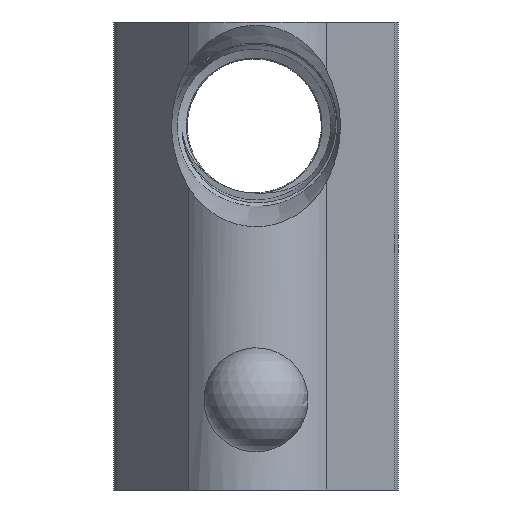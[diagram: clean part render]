
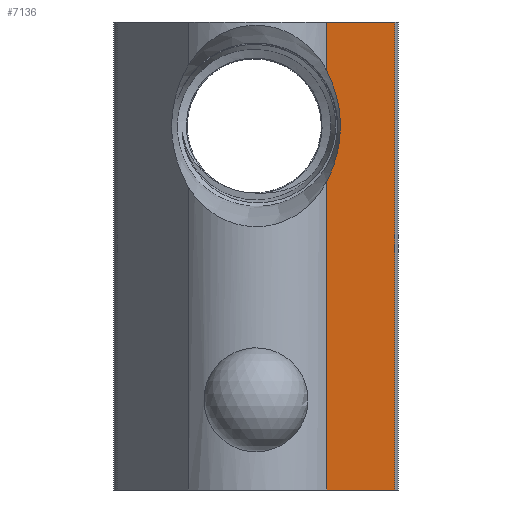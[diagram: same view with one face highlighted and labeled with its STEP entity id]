
A CAD part, front view. The second image highlights one B-rep face of the part: STEP entity #7136.
In plain terms, the highlighted planar face has unit normal (0.815, -0.579, 0).
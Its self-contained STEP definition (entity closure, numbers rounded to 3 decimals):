
#608 = CONICAL_SURFACE('',#609,2.818,0.284);
#609 = AXIS2_PLACEMENT_3D('',#610,#611,#612);
#610 = CARTESIAN_POINT('',(0.,-3.911,3.75));
#611 = DIRECTION('',(0.,-1.,0.));
#612 = DIRECTION('',(-1.,0.,0.));
#1327 = VERTEX_POINT('',#1328);
#1328 = CARTESIAN_POINT('',(2.034,-3.15,
    5.363));
#1401 = CYLINDRICAL_SURFACE('',#1402,2.495);
#1402 = AXIS2_PLACEMENT_3D('',#1403,#1404,#1405);
#1403 = CARTESIAN_POINT('',(0.,-1.705,0.));
#1404 = DIRECTION('',(0.,0.,1.));
#1405 = DIRECTION('',(-0.815,-0.579,0.));
#1457 = EDGE_CURVE('',#1327,#1458,#1460,.T.);
#1458 = VERTEX_POINT('',#1459);
#1459 = CARTESIAN_POINT('',(2.034,-3.15,
    2.137));
#1460 = SURFACE_CURVE('',#1461,(#1466,#1495),.PCURVE_S1.);
#1461 = ELLIPSE('',#1462,7.134,3.765);
#1462 = AXIS2_PLACEMENT_3D('',#1463,#1464,#1465);
#1463 = CARTESIAN_POINT('',(-1.698,-8.405,3.75));
#1464 = DIRECTION('',(-0.815,0.579,0.));
#1465 = DIRECTION('',(0.579,0.815,0.));
#1466 = PCURVE('',#608,#1467);
#1467 = DEFINITIONAL_REPRESENTATION('',(#1468),#1494);
#1468 = B_SPLINE_CURVE_WITH_KNOTS('',3,(#1469,#1470,#1471,#1472,#1473,
    #1474,#1475,#1476,#1477,#1478,#1479,#1480,#1481,#1482,#1483,#1484,
    #1485,#1486,#1487,#1488,#1489,#1490,#1491,#1492,#1493),
  .UNSPECIFIED.,.F.,.F.,(4,1,1,1,1,1,1,1,1,1,1,1,1,1,1,1,1,1,1,1,1,1,4),
  (5.841,5.881,5.921,5.961,
    6.001,6.042,6.082,6.122,
    6.162,6.203,6.243,6.283,
    6.323,6.364,6.404,6.444,
    6.484,6.525,6.565,6.605,
    6.645,6.686,6.726),
  .QUASI_UNIFORM_KNOTS.);
#1469 = CARTESIAN_POINT('',(3.812,-0.761));
#1470 = CARTESIAN_POINT('',(3.792,-0.795));
#1471 = CARTESIAN_POINT('',(3.753,-0.859));
#1472 = CARTESIAN_POINT('',(3.694,-0.946));
#1473 = CARTESIAN_POINT('',(3.634,-1.025));
#1474 = CARTESIAN_POINT('',(3.574,-1.094));
#1475 = CARTESIAN_POINT('',(3.513,-1.155));
#1476 = CARTESIAN_POINT('',(3.452,-1.206));
#1477 = CARTESIAN_POINT('',(3.39,-1.248));
#1478 = CARTESIAN_POINT('',(3.328,-1.281));
#1479 = CARTESIAN_POINT('',(3.266,-1.305));
#1480 = CARTESIAN_POINT('',(3.204,-1.319));
#1481 = CARTESIAN_POINT('',(3.142,-1.324));
#1482 = CARTESIAN_POINT('',(3.079,-1.319));
#1483 = CARTESIAN_POINT('',(3.017,-1.305));
#1484 = CARTESIAN_POINT('',(2.955,-1.281));
#1485 = CARTESIAN_POINT('',(2.893,-1.248));
#1486 = CARTESIAN_POINT('',(2.832,-1.206));
#1487 = CARTESIAN_POINT('',(2.77,-1.155));
#1488 = CARTESIAN_POINT('',(2.709,-1.094));
#1489 = CARTESIAN_POINT('',(2.649,-1.025));
#1490 = CARTESIAN_POINT('',(2.589,-0.946));
#1491 = CARTESIAN_POINT('',(2.53,-0.859));
#1492 = CARTESIAN_POINT('',(2.491,-0.795));
#1493 = CARTESIAN_POINT('',(2.471,-0.761));
#1494 = ( GEOMETRIC_REPRESENTATION_CONTEXT(2) 
PARAMETRIC_REPRESENTATION_CONTEXT() REPRESENTATION_CONTEXT('2D SPACE',''
  ) );
#1495 = PCURVE('',#1496,#1501);
#1496 = PLANE('',#1497);
#1497 = AXIS2_PLACEMENT_3D('',#1498,#1499,#1500);
#1498 = CARTESIAN_POINT('',(2.034,-3.15,0.));
#1499 = DIRECTION('',(0.815,-0.579,0.));
#1500 = DIRECTION('',(0.579,0.815,0.));
#1501 = DEFINITIONAL_REPRESENTATION('',(#1502),#1510);
#1502 = ( BOUNDED_CURVE() B_SPLINE_CURVE(2,(#1503,#1504,#1505,#1506,
#1507,#1508,#1509),.UNSPECIFIED.,.T.,.F.) B_SPLINE_CURVE_WITH_KNOTS((1,2
    ,2,2,2,1),(-2.094,0.,2.094,4.189,
6.283,8.378),.UNSPECIFIED.) CURVE() 
GEOMETRIC_REPRESENTATION_ITEM() RATIONAL_B_SPLINE_CURVE((1.,0.5,1.,0.5,
1.,0.5,1.)) REPRESENTATION_ITEM('') );
#1503 = CARTESIAN_POINT('',(0.688,3.75));
#1504 = CARTESIAN_POINT('',(0.688,-2.771));
#1505 = CARTESIAN_POINT('',(-10.013,0.489));
#1506 = CARTESIAN_POINT('',(-20.713,3.75));
#1507 = CARTESIAN_POINT('',(-10.013,7.011));
#1508 = CARTESIAN_POINT('',(0.688,10.271));
#1509 = CARTESIAN_POINT('',(0.688,3.75));
#1510 = ( GEOMETRIC_REPRESENTATION_CONTEXT(2) 
PARAMETRIC_REPRESENTATION_CONTEXT() REPRESENTATION_CONTEXT('2D SPACE',''
  ) );
#1587 = CYLINDRICAL_SURFACE('',#1588,2.495);
#1588 = AXIS2_PLACEMENT_3D('',#1589,#1590,#1591);
#1589 = CARTESIAN_POINT('',(0.,-1.705,0.));
#1590 = DIRECTION('',(0.,0.,1.));
#1591 = DIRECTION('',(-0.815,-0.579,0.));
#3923 = PLANE('',#3924);
#3924 = AXIS2_PLACEMENT_3D('',#3925,#3926,#3927);
#3925 = CARTESIAN_POINT('',(-0.003,-1.358,6.75));
#3926 = DIRECTION('',(0.,0.,1.));
#3927 = DIRECTION('',(1.,0.,-0.));
#3979 = PLANE('',#3980);
#3980 = AXIS2_PLACEMENT_3D('',#3981,#3982,#3983);
#3981 = CARTESIAN_POINT('',(-0.003,-1.358,-6.75));
#3982 = DIRECTION('',(0.,0.,1.));
#3983 = DIRECTION('',(1.,0.,-0.));
#4016 = EDGE_CURVE('',#4017,#1327,#4019,.T.);
#4017 = VERTEX_POINT('',#4018);
#4018 = CARTESIAN_POINT('',(2.034,-3.15,6.75));
#4019 = SURFACE_CURVE('',#4020,(#4024,#4031),.PCURVE_S1.);
#4020 = LINE('',#4021,#4022);
#4021 = CARTESIAN_POINT('',(2.034,-3.15,0.));
#4022 = VECTOR('',#4023,1.);
#4023 = DIRECTION('',(0.,0.,-1.));
#4024 = PCURVE('',#1401,#4025);
#4025 = DEFINITIONAL_REPRESENTATION('',(#4026),#4030);
#4026 = LINE('',#4027,#4028);
#4027 = CARTESIAN_POINT('',(1.907,0.));
#4028 = VECTOR('',#4029,1.);
#4029 = DIRECTION('',(0.,-1.));
#4030 = ( GEOMETRIC_REPRESENTATION_CONTEXT(2) 
PARAMETRIC_REPRESENTATION_CONTEXT() REPRESENTATION_CONTEXT('2D SPACE',''
  ) );
#4031 = PCURVE('',#1496,#4032);
#4032 = DEFINITIONAL_REPRESENTATION('',(#4033),#4037);
#4033 = LINE('',#4034,#4035);
#4034 = CARTESIAN_POINT('',(0.,0.));
#4035 = VECTOR('',#4036,1.);
#4036 = DIRECTION('',(0.,-1.));
#4037 = ( GEOMETRIC_REPRESENTATION_CONTEXT(2) 
PARAMETRIC_REPRESENTATION_CONTEXT() REPRESENTATION_CONTEXT('2D SPACE',''
  ) );
#7136 = ADVANCED_FACE('',(#7137),#1496,.T.);
#7137 = FACE_BOUND('',#7138,.T.);
#7138 = EDGE_LOOP('',(#7139,#7140,#7163,#7186,#7214,#7235));
#7139 = ORIENTED_EDGE('',*,*,#1457,.T.);
#7140 = ORIENTED_EDGE('',*,*,#7141,.T.);
#7141 = EDGE_CURVE('',#1458,#7142,#7144,.T.);
#7142 = VERTEX_POINT('',#7143);
#7143 = CARTESIAN_POINT('',(2.034,-3.15,-6.75));
#7144 = SURFACE_CURVE('',#7145,(#7149,#7156),.PCURVE_S1.);
#7145 = LINE('',#7146,#7147);
#7146 = CARTESIAN_POINT('',(2.034,-3.15,0.));
#7147 = VECTOR('',#7148,1.);
#7148 = DIRECTION('',(0.,0.,-1.));
#7149 = PCURVE('',#1496,#7150);
#7150 = DEFINITIONAL_REPRESENTATION('',(#7151),#7155);
#7151 = LINE('',#7152,#7153);
#7152 = CARTESIAN_POINT('',(0.,0.));
#7153 = VECTOR('',#7154,1.);
#7154 = DIRECTION('',(0.,-1.));
#7155 = ( GEOMETRIC_REPRESENTATION_CONTEXT(2) 
PARAMETRIC_REPRESENTATION_CONTEXT() REPRESENTATION_CONTEXT('2D SPACE',''
  ) );
#7156 = PCURVE('',#1587,#7157);
#7157 = DEFINITIONAL_REPRESENTATION('',(#7158),#7162);
#7158 = LINE('',#7159,#7160);
#7159 = CARTESIAN_POINT('',(1.907,0.));
#7160 = VECTOR('',#7161,1.);
#7161 = DIRECTION('',(0.,-1.));
#7162 = ( GEOMETRIC_REPRESENTATION_CONTEXT(2) 
PARAMETRIC_REPRESENTATION_CONTEXT() REPRESENTATION_CONTEXT('2D SPACE',''
  ) );
#7163 = ORIENTED_EDGE('',*,*,#7164,.F.);
#7164 = EDGE_CURVE('',#7165,#7142,#7167,.T.);
#7165 = VERTEX_POINT('',#7166);
#7166 = CARTESIAN_POINT('',(4.008,-0.371,-6.75));
#7167 = SURFACE_CURVE('',#7168,(#7172,#7179),.PCURVE_S1.);
#7168 = LINE('',#7169,#7170);
#7169 = CARTESIAN_POINT('',(2.034,-3.15,-6.75));
#7170 = VECTOR('',#7171,1.);
#7171 = DIRECTION('',(-0.579,-0.815,0.));
#7172 = PCURVE('',#1496,#7173);
#7173 = DEFINITIONAL_REPRESENTATION('',(#7174),#7178);
#7174 = LINE('',#7175,#7176);
#7175 = CARTESIAN_POINT('',(0.,-6.75));
#7176 = VECTOR('',#7177,1.);
#7177 = DIRECTION('',(-1.,0.));
#7178 = ( GEOMETRIC_REPRESENTATION_CONTEXT(2) 
PARAMETRIC_REPRESENTATION_CONTEXT() REPRESENTATION_CONTEXT('2D SPACE',''
  ) );
#7179 = PCURVE('',#3979,#7180);
#7180 = DEFINITIONAL_REPRESENTATION('',(#7181),#7185);
#7181 = LINE('',#7182,#7183);
#7182 = CARTESIAN_POINT('',(2.038,-1.792));
#7183 = VECTOR('',#7184,1.);
#7184 = DIRECTION('',(-0.579,-0.815));
#7185 = ( GEOMETRIC_REPRESENTATION_CONTEXT(2) 
PARAMETRIC_REPRESENTATION_CONTEXT() REPRESENTATION_CONTEXT('2D SPACE',''
  ) );
#7186 = ORIENTED_EDGE('',*,*,#7187,.T.);
#7187 = EDGE_CURVE('',#7165,#7188,#7190,.T.);
#7188 = VERTEX_POINT('',#7189);
#7189 = CARTESIAN_POINT('',(4.008,-0.371,6.75));
#7190 = SURFACE_CURVE('',#7191,(#7195,#7202),.PCURVE_S1.);
#7191 = LINE('',#7192,#7193);
#7192 = CARTESIAN_POINT('',(4.008,-0.371,0.));
#7193 = VECTOR('',#7194,1.);
#7194 = DIRECTION('',(0.,0.,1.));
#7195 = PCURVE('',#1496,#7196);
#7196 = DEFINITIONAL_REPRESENTATION('',(#7197),#7201);
#7197 = LINE('',#7198,#7199);
#7198 = CARTESIAN_POINT('',(3.408,0.));
#7199 = VECTOR('',#7200,1.);
#7200 = DIRECTION('',(0.,1.));
#7201 = ( GEOMETRIC_REPRESENTATION_CONTEXT(2) 
PARAMETRIC_REPRESENTATION_CONTEXT() REPRESENTATION_CONTEXT('2D SPACE',''
  ) );
#7202 = PCURVE('',#7203,#7208);
#7203 = CYLINDRICAL_SURFACE('',#7204,0.5);
#7204 = AXIS2_PLACEMENT_3D('',#7205,#7206,#7207);
#7205 = CARTESIAN_POINT('',(3.6,-0.081,0.));
#7206 = DIRECTION('',(0.,0.,1.));
#7207 = DIRECTION('',(0.815,-0.579,0.));
#7208 = DEFINITIONAL_REPRESENTATION('',(#7209),#7213);
#7209 = LINE('',#7210,#7211);
#7210 = CARTESIAN_POINT('',(0.,0.));
#7211 = VECTOR('',#7212,1.);
#7212 = DIRECTION('',(0.,1.));
#7213 = ( GEOMETRIC_REPRESENTATION_CONTEXT(2) 
PARAMETRIC_REPRESENTATION_CONTEXT() REPRESENTATION_CONTEXT('2D SPACE',''
  ) );
#7214 = ORIENTED_EDGE('',*,*,#7215,.F.);
#7215 = EDGE_CURVE('',#4017,#7188,#7216,.T.);
#7216 = SURFACE_CURVE('',#7217,(#7221,#7228),.PCURVE_S1.);
#7217 = LINE('',#7218,#7219);
#7218 = CARTESIAN_POINT('',(2.034,-3.15,6.75));
#7219 = VECTOR('',#7220,1.);
#7220 = DIRECTION('',(0.579,0.815,0.));
#7221 = PCURVE('',#1496,#7222);
#7222 = DEFINITIONAL_REPRESENTATION('',(#7223),#7227);
#7223 = LINE('',#7224,#7225);
#7224 = CARTESIAN_POINT('',(0.,6.75));
#7225 = VECTOR('',#7226,1.);
#7226 = DIRECTION('',(1.,0.));
#7227 = ( GEOMETRIC_REPRESENTATION_CONTEXT(2) 
PARAMETRIC_REPRESENTATION_CONTEXT() REPRESENTATION_CONTEXT('2D SPACE',''
  ) );
#7228 = PCURVE('',#3923,#7229);
#7229 = DEFINITIONAL_REPRESENTATION('',(#7230),#7234);
#7230 = LINE('',#7231,#7232);
#7231 = CARTESIAN_POINT('',(2.038,-1.792));
#7232 = VECTOR('',#7233,1.);
#7233 = DIRECTION('',(0.579,0.815));
#7234 = ( GEOMETRIC_REPRESENTATION_CONTEXT(2) 
PARAMETRIC_REPRESENTATION_CONTEXT() REPRESENTATION_CONTEXT('2D SPACE',''
  ) );
#7235 = ORIENTED_EDGE('',*,*,#4016,.T.);
